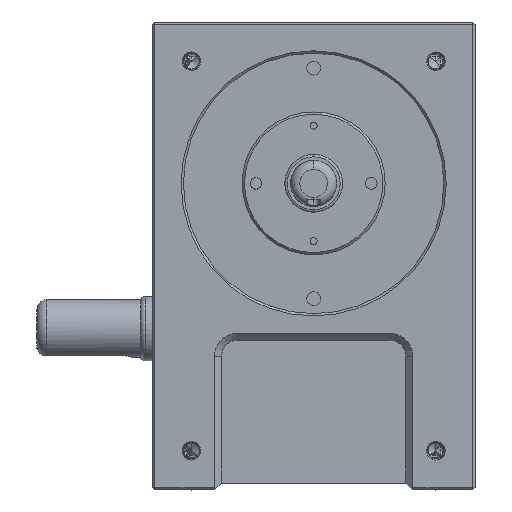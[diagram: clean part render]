
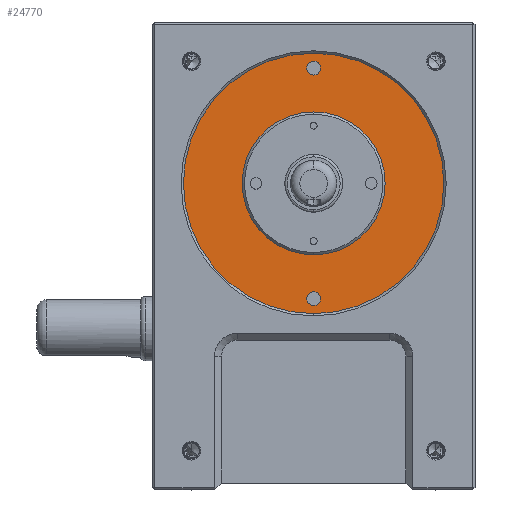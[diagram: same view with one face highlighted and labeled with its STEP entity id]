
A CAD part, left-side view. The second image highlights one B-rep face of the part: STEP entity #24770.
In plain terms, the highlighted planar face has unit normal (-1, 0, 0).
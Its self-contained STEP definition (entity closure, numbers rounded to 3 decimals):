
#1095 = FACE_BOUND ( 'NONE', #45593, .T. ) ;
#3412 = CARTESIAN_POINT ( 'NONE',  ( -69., 70., 81.5 ) ) ;
#3416 = ORIENTED_EDGE ( 'NONE', *, *, #33353, .F. ) ;
#3556 = DIRECTION ( 'NONE',  ( 0., 0., -1. ) ) ;
#3884 = CIRCLE ( 'NONE', #11081, 3. ) ;
#4139 = VERTEX_POINT ( 'NONE', #51386 ) ;
#5180 = EDGE_CURVE ( 'NONE', #11898, #13549, #33718, .T. ) ;
#5272 = AXIS2_PLACEMENT_3D ( 'NONE', #36216, #8136, #58610 ) ;
#5891 = VERTEX_POINT ( 'NONE', #7158 ) ;
#6018 = DIRECTION ( 'NONE',  ( 1., 0., 0. ) ) ;
#7158 = CARTESIAN_POINT ( 'NONE',  ( -69., 70., -25. ) ) ;
#8136 = DIRECTION ( 'NONE',  ( -1., 0., 0. ) ) ;
#9245 = AXIS2_PLACEMENT_3D ( 'NONE', #35300, #6018, #3556 ) ;
#9851 = CARTESIAN_POINT ( 'NONE',  ( -69., 70., 31.5 ) ) ;
#10035 = DIRECTION ( 'NONE',  ( 0., 0., -1. ) ) ;
#10751 = ORIENTED_EDGE ( 'NONE', *, *, #33351, .T. ) ;
#11081 = AXIS2_PLACEMENT_3D ( 'NONE', #58740, #46938, #58022 ) ;
#11898 = VERTEX_POINT ( 'NONE', #14004 ) ;
#13549 = VERTEX_POINT ( 'NONE', #29200 ) ;
#14004 = CARTESIAN_POINT ( 'NONE',  ( -69., 70., 84.5 ) ) ;
#14108 = EDGE_LOOP ( 'NONE', ( #61362, #54397 ) ) ;
#14389 = CIRCLE ( 'NONE', #47613, 3. ) ;
#14665 = EDGE_LOOP ( 'NONE', ( #37293, #10751 ) ) ;
#14965 = DIRECTION ( 'NONE',  ( 1., 0., 0. ) ) ;
#16523 = DIRECTION ( 'NONE',  ( 1., 0., 0. ) ) ;
#18454 = AXIS2_PLACEMENT_3D ( 'NONE', #3412, #14965, #10035 ) ;
#18843 = CARTESIAN_POINT ( 'NONE',  ( -69., 70., 31.5 ) ) ;
#20701 = AXIS2_PLACEMENT_3D ( 'NONE', #56422, #50514, #22750 ) ;
#20907 = CIRCLE ( 'NONE', #20701, 31. ) ;
#21014 = CIRCLE ( 'NONE', #57757, 31. ) ;
#22750 = DIRECTION ( 'NONE',  ( 0., 0., 1. ) ) ;
#23052 = CARTESIAN_POINT ( 'NONE',  ( -69., 70., 62.5 ) ) ;
#24460 = PLANE ( 'NONE',  #5272 ) ;
#24770 = ADVANCED_FACE ( 'NONE', ( #68055, #43691, #1095, #39871 ), #24460, .T. ) ;
#26512 = DIRECTION ( 'NONE',  ( 1., 0., 0. ) ) ;
#28577 = ORIENTED_EDGE ( 'NONE', *, *, #56177, .T. ) ;
#29200 = CARTESIAN_POINT ( 'NONE',  ( -69., 70., 78.5 ) ) ;
#31714 = CARTESIAN_POINT ( 'NONE',  ( -69., 70., -15.5 ) ) ;
#31827 = EDGE_CURVE ( 'NONE', #71816, #58002, #3884, .T. ) ;
#33351 = EDGE_CURVE ( 'NONE', #58002, #71816, #14389, .T. ) ;
#33353 = EDGE_CURVE ( 'NONE', #4139, #5891, #72549, .T. ) ;
#33718 = CIRCLE ( 'NONE', #9245, 3. ) ;
#35300 = CARTESIAN_POINT ( 'NONE',  ( -69., 70., 81.5 ) ) ;
#36216 = CARTESIAN_POINT ( 'NONE',  ( -69., 70., 31.5 ) ) ;
#37293 = ORIENTED_EDGE ( 'NONE', *, *, #31827, .T. ) ;
#37558 = CARTESIAN_POINT ( 'NONE',  ( -69., 70., -18.5 ) ) ;
#39263 = ORIENTED_EDGE ( 'NONE', *, *, #52740, .T. ) ;
#39871 = FACE_BOUND ( 'NONE', #14108, .T. ) ;
#41691 = DIRECTION ( 'NONE',  ( 1., 0., 0. ) ) ;
#42476 = DIRECTION ( 'NONE',  ( 0., 0., 1. ) ) ;
#43691 = FACE_OUTER_BOUND ( 'NONE', #53437, .T. ) ;
#43829 = DIRECTION ( 'NONE',  ( 0., 0., 1. ) ) ;
#45593 = EDGE_LOOP ( 'NONE', ( #28577, #39263 ) ) ;
#46938 = DIRECTION ( 'NONE',  ( 1., 0., 0. ) ) ;
#47336 = DIRECTION ( 'NONE',  ( 0., 0., 1. ) ) ;
#47613 = AXIS2_PLACEMENT_3D ( 'NONE', #37558, #26512, #59944 ) ;
#47811 = CARTESIAN_POINT ( 'NONE',  ( -69., 70., 0.5 ) ) ;
#48126 = DIRECTION ( 'NONE',  ( 1., 0., 0. ) ) ;
#48250 = AXIS2_PLACEMENT_3D ( 'NONE', #9851, #16523, #43829 ) ;
#50254 = EDGE_CURVE ( 'NONE', #5891, #4139, #69584, .T. ) ;
#50514 = DIRECTION ( 'NONE',  ( 1., 0., 0. ) ) ;
#50719 = CIRCLE ( 'NONE', #18454, 3. ) ;
#51386 = CARTESIAN_POINT ( 'NONE',  ( -69., 70., 88. ) ) ;
#52740 = EDGE_CURVE ( 'NONE', #72420, #63387, #21014, .T. ) ;
#53393 = CARTESIAN_POINT ( 'NONE',  ( -69., 70., -21.5 ) ) ;
#53437 = EDGE_LOOP ( 'NONE', ( #58131, #3416 ) ) ;
#54293 = CARTESIAN_POINT ( 'NONE',  ( -69., 70., 31.5 ) ) ;
#54397 = ORIENTED_EDGE ( 'NONE', *, *, #71768, .T. ) ;
#56177 = EDGE_CURVE ( 'NONE', #63387, #72420, #20907, .T. ) ;
#56422 = CARTESIAN_POINT ( 'NONE',  ( -69., 70., 31.5 ) ) ;
#57533 = AXIS2_PLACEMENT_3D ( 'NONE', #54293, #48126, #42476 ) ;
#57757 = AXIS2_PLACEMENT_3D ( 'NONE', #18843, #41691, #47336 ) ;
#58002 = VERTEX_POINT ( 'NONE', #53393 ) ;
#58022 = DIRECTION ( 'NONE',  ( 0., 0., -1. ) ) ;
#58131 = ORIENTED_EDGE ( 'NONE', *, *, #50254, .F. ) ;
#58610 = DIRECTION ( 'NONE',  ( 0., 0., -1. ) ) ;
#58740 = CARTESIAN_POINT ( 'NONE',  ( -69., 70., -18.5 ) ) ;
#59944 = DIRECTION ( 'NONE',  ( 0., 0., -1. ) ) ;
#61362 = ORIENTED_EDGE ( 'NONE', *, *, #5180, .T. ) ;
#63387 = VERTEX_POINT ( 'NONE', #47811 ) ;
#68055 = FACE_BOUND ( 'NONE', #14665, .T. ) ;
#69584 = CIRCLE ( 'NONE', #48250, 56.5 ) ;
#71768 = EDGE_CURVE ( 'NONE', #13549, #11898, #50719, .T. ) ;
#71816 = VERTEX_POINT ( 'NONE', #31714 ) ;
#72420 = VERTEX_POINT ( 'NONE', #23052 ) ;
#72549 = CIRCLE ( 'NONE', #57533, 56.5 ) ;
